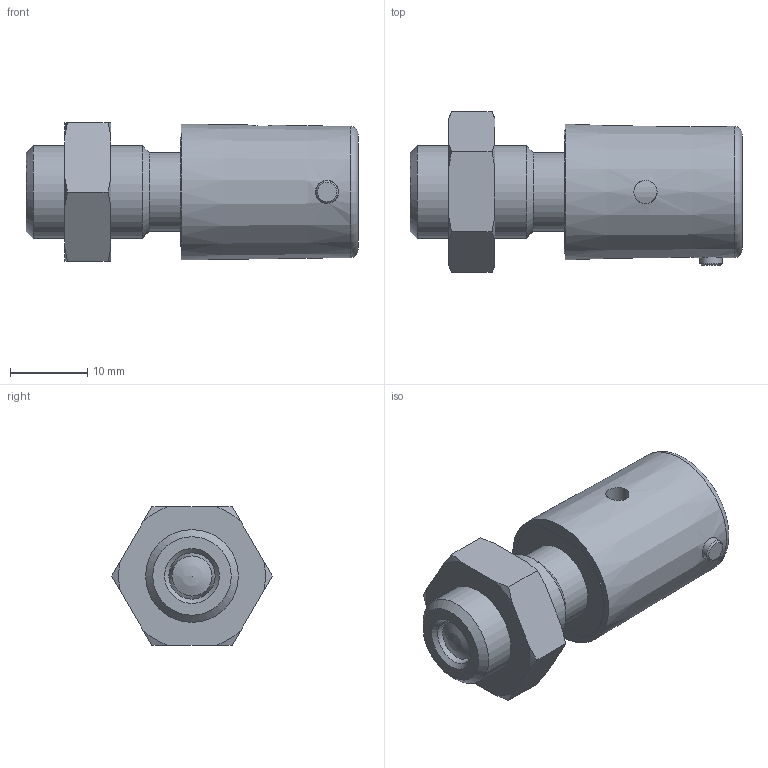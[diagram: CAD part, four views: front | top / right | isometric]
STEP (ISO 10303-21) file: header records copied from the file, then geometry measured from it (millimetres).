
FILE_DESCRIPTION( ( 'STEP AP203' ), '1' );
FILE_NAME( 'C:/Temp/Ganter_Step_05_03_2020/data/3_1/gn816_1/gn_816_1_bk/Locking plunger GN 816.1-6-M12x1,5-BK (deactivated).stp', '2020-03-12T08:56:20', ( 'License CC BY-ND 4.0' ), ( 'CADENAS' ), ' ', 'PARTsolutions', ' ' );
FILE_SCHEMA( ( 'CONFIG_CONTROL_DESIGN' ) );
Length unit declared in the file: millimetre
Products named in the file (4): Locking plunger GN 816.1-6-M12x1,5-BK (deactivated); _GN 816.1-6-M12x1,5-B(0)-b2; _GN 816.1-6-M12x1,5-Bb1; _Lock nut ISO 8675 GN 816-6-M12x1,5-AK
Assembly tree (3 placements, depth 2):
  Locking plunger GN 816.1-6-M12x1,5-BK (deactivated)
    _GN 816.1-6-M12x1,5-B(0)-b2
    _GN 816.1-6-M12x1,5-Bb1
    _Lock nut ISO 8675 GN 816-6-M12x1,5-AK
Bounding box: 43 x 20.78 x 18 mm (x, y, z)
Volume: 7250.7 mm3; surface area: 5555.9 mm2
Topology: 3 solids, 3 shells, 64 faces, 140 edges, 89 vertices
Faces by surface type: cone 25, plane 21, cylinder 15, torus 2, sphere 1
Full cylindrical faces by diameter (mm): 2.9 x2, 3 x2, 6 x2, 7 x1, 8 x1, 8.1 x1, 10.2 x1, 10.376 x1, 11.1 x1, 12 x1
Entity records: 2043 total; most frequent: CARTESIAN_POINT 637, DIRECTION 264, ORIENTED_EDGE 214, AXIS2_PLACEMENT_3D 119, EDGE_LOOP 108, EDGE_CURVE 107, VERTEX_POINT 86, FACE_OUTER_BOUND 79
